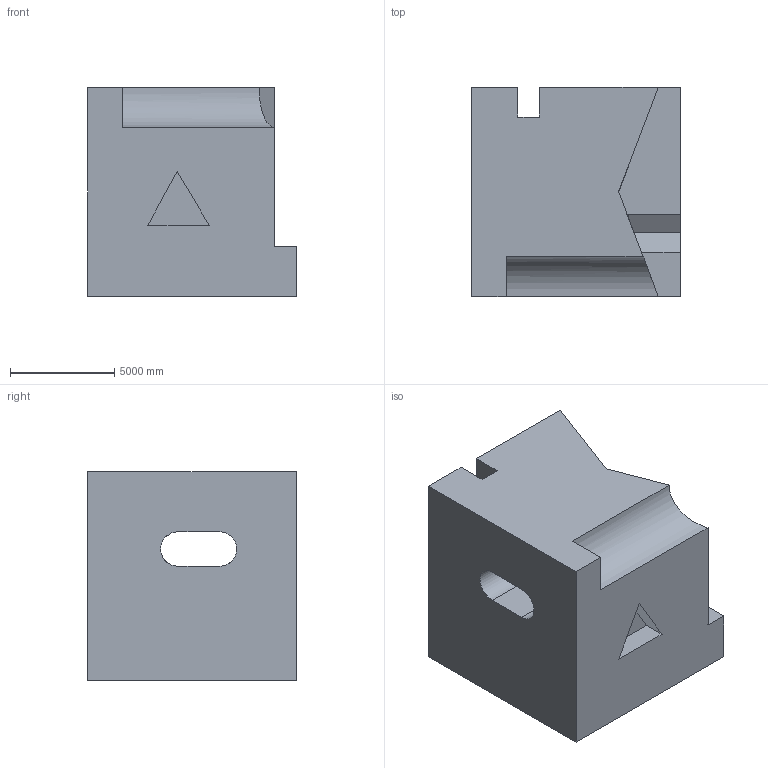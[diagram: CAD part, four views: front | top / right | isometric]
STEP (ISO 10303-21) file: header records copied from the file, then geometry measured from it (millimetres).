
FILE_DESCRIPTION (( 'STEP AP203' ), '1' );
FILE_NAME ('695.STEP', '2022-08-04T15:37:49', ( 'user' ), ( '' ), 'SwSTEP 2.0', 'SolidWorks 2021', '' );
FILE_SCHEMA (( 'CONFIG_CONTROL_DESIGN' ));
Length unit declared in the file: centimetre
Products named in the file (1): 695
Bounding box: 10000 x 10000 x 10000 mm (x, y, z)
Volume: 744604811524.2 mm3; surface area: 673004873.4 mm2
Topology: 1 solids, 1 shells, 32 faces, 90 edges, 60 vertices
Faces by surface type: plane 29, cylinder 3
Entity records: 1098 total; most frequent: CARTESIAN_POINT 192, ORIENTED_EDGE 180, DIRECTION 156, EDGE_CURVE 90, VECTOR 84, LINE 84, VERTEX_POINT 60, AXIS2_PLACEMENT_3D 36
